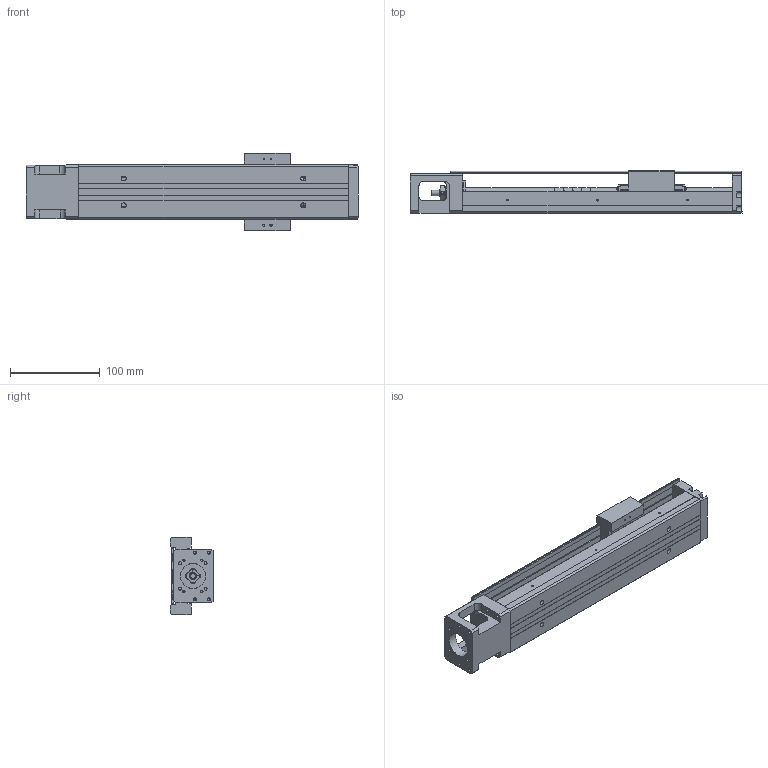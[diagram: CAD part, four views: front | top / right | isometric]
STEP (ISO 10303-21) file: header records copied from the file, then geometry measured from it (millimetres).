
FILE_DESCRIPTION(/* description */ (''),/* implementation_level */ '2;1');
FILE_NAME(/* name */ 'KP33N-300C.stp',/* time_stamp */ '2019-02-25T15:00:17+08:00',/* author */ (''),/* organization */ (''),/* preprocessor_version */ 'ST-DEVELOPER v11',/* originating_system */ 'SIEMENS UGS NX 6.0',/* authorisation */ '');
FILE_SCHEMA (('CONFIG_CONTROL_DESIGN'));
Length unit declared in the file: millimetre
Products named in the file (1): darrFF5Egx85
Bounding box: 370 x 47.95 x 86 mm (x, y, z)
Volume: 536689.1 mm3; surface area: 183132.9 mm2
Topology: 7 solids, 12 shells, 709 faces, 1795 edges, 1187 vertices
Faces by surface type: plane 425, cylinder 197, bspline 31, cone 24, extrusion 21, torus 9, revolution 2
Full cylindrical faces by diameter (mm): 1.6 x5, 1.65 x4, 2.15 x3, 2.42 x4, 2.45 x8, 2.5 x18, 3 x3, 3.2 x4, 3.3 x4, 3.4 x3, 3.5 x10, 3.969 x1, 4 x6, 4.001 x1, 4.135 x4, 4.2 x4, 5.5 x4, 6 x5, 7.6 x1, 8 x5, 9.5 x4, 10.72 x3, 11.8 x2, 12 x6, 12.8 x1, 13 x2, 14 x1, 17.38 x3, 21.5 x1, 22 x2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
Entity records: 32629 total; most frequent: CARTESIAN_POINT 16459, DIRECTION 3222, ORIENTED_EDGE 3118, EDGE_CURVE 1559, AXIS2_PLACEMENT_3D 1126, VERTEX_POINT 1109, EDGE_LOOP 1006, VECTOR 968
